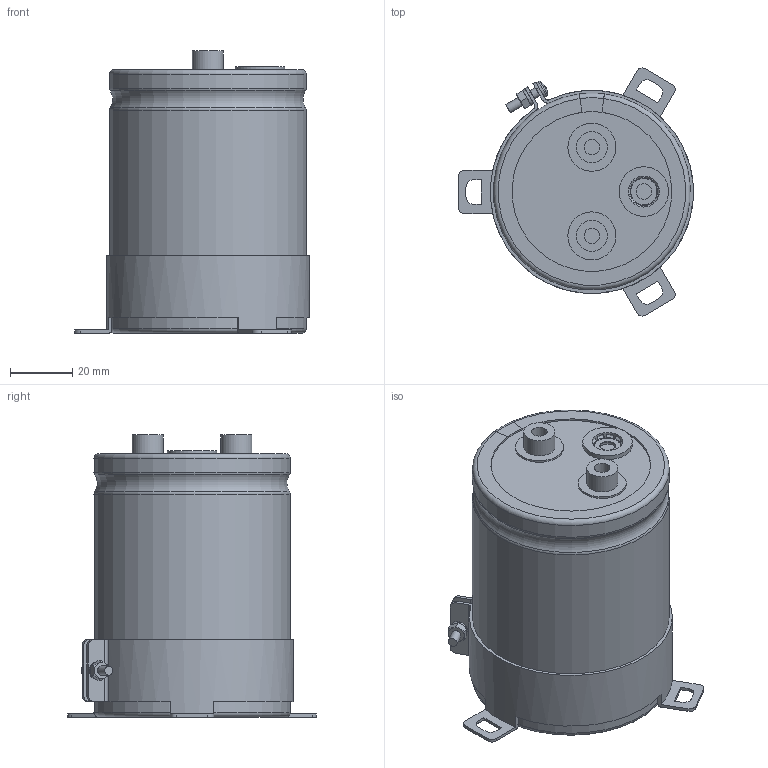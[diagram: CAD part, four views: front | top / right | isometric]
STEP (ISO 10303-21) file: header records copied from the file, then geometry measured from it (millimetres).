
FILE_DESCRIPTION(/* description */ (''),/* implementation_level */ '2;1');
FILE_NAME(/* name */ '63.5x85_Screw.stp',/* time_stamp */ '2017-09-15T19:27:47+09:00',/* author */ (''),/* organization */ (''),/* preprocessor_version */ 'ST-DEVELOPER v16',/* originating_system */ 'SIEMENS PLM Software NX 11.0',/* authorisation */ '');
FILE_SCHEMA (('AUTOMOTIVE_DESIGN { 1 0 10303 214 3 1 1 1 }'));
Length unit declared in the file: millimetre
Products named in the file (1): 63.5x85_Screw
Bounding box: 75.75 x 80.01 x 91 mm (x, y, z)
Volume: 271431.3 mm3; surface area: 71969.6 mm2
Topology: 9 solids, 9 shells, 259 faces, 644 edges, 415 vertices
Faces by surface type: plane 112, cylinder 66, torus 49, cone 31, sphere 1
Full cylindrical faces by diameter (mm): 3 x5, 5 x6, 5.5 x2, 10 x4, 15.5 x2, 16 x1, 62.3 x2
Entity records: 8411 total; most frequent: CARTESIAN_POINT 2059, DIRECTION 1296, ORIENTED_EDGE 1214, EDGE_CURVE 607, AXIS2_PLACEMENT_3D 541, VERTEX_POINT 408, EDGE_LOOP 317, CIRCLE 281
